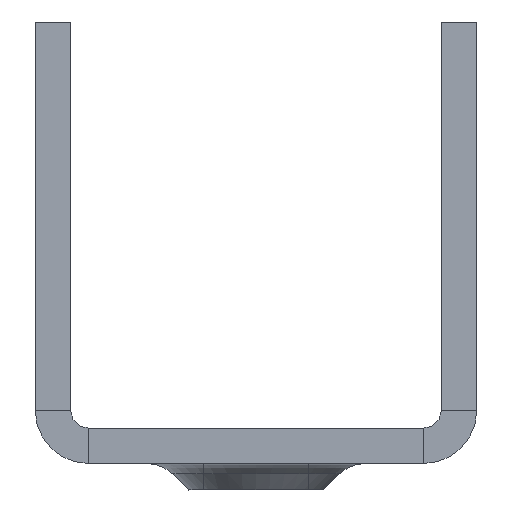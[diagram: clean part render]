
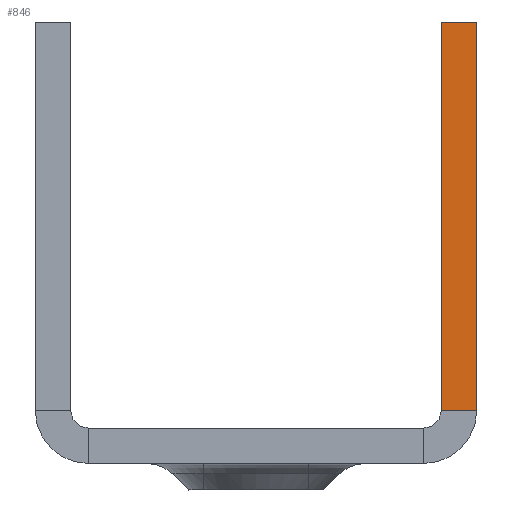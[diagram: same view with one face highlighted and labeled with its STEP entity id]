
A CAD part, front view. The second image highlights one B-rep face of the part: STEP entity #846.
In plain terms, the highlighted planar face has unit normal (0, -1, 0).
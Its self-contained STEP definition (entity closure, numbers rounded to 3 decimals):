
#148=FACE_OUTER_BOUND('',#211,.T.);
#211=EDGE_LOOP('',(#719,#720,#721,#722));
#265=LINE('',#1470,#325);
#267=LINE('',#1473,#327);
#270=LINE('',#1481,#330);
#271=LINE('',#1482,#331);
#325=VECTOR('',#1208,1.88);
#327=VECTOR('',#1212,10.);
#330=VECTOR('',#1223,10.);
#331=VECTOR('',#1224,10.);
#407=VERTEX_POINT('',#1453);
#412=VERTEX_POINT('',#1467);
#413=VERTEX_POINT('',#1469);
#414=VERTEX_POINT('',#1480);
#515=EDGE_CURVE('',#413,#412,#265,.T.);
#517=EDGE_CURVE('',#412,#407,#267,.T.);
#522=EDGE_CURVE('',#407,#414,#270,.T.);
#523=EDGE_CURVE('',#413,#414,#271,.T.);
#719=ORIENTED_EDGE('',*,*,#517,.T.);
#720=ORIENTED_EDGE('',*,*,#522,.T.);
#721=ORIENTED_EDGE('',*,*,#523,.F.);
#722=ORIENTED_EDGE('',*,*,#515,.T.);
#798=PLANE('',#973);
#846=ADVANCED_FACE('',(#148),#798,.T.);
#973=AXIS2_PLACEMENT_3D('',#1479,#1221,#1222);
#1208=DIRECTION('',(0.,0.,-1.));
#1212=DIRECTION('',(1.,0.,0.));
#1221=DIRECTION('center_axis',(0.,-1.,0.));
#1222=DIRECTION('ref_axis',(1.,0.,0.));
#1223=DIRECTION('',(0.,0.,1.));
#1224=DIRECTION('',(1.,0.,0.));
#1453=CARTESIAN_POINT('',(12.5,-2000.,3.));
#1467=CARTESIAN_POINT('',(10.5,-2000.,3.));
#1469=CARTESIAN_POINT('',(10.5,-2000.,25.));
#1470=CARTESIAN_POINT('',(10.5,-2000.,-2.906));
#1473=CARTESIAN_POINT('',(10.94,-2000.,3.));
#1479=CARTESIAN_POINT('Origin',(10.5,-2000.,3.));
#1480=CARTESIAN_POINT('',(12.5,-2000.,25.));
#1481=CARTESIAN_POINT('',(12.5,-2000.,3.));
#1482=CARTESIAN_POINT('',(10.5,-2000.,25.));
